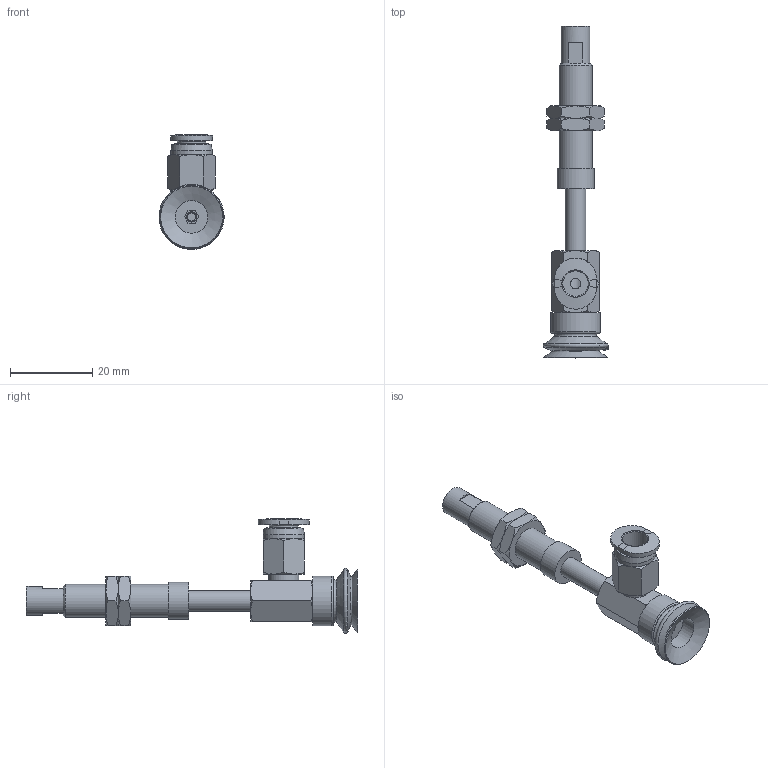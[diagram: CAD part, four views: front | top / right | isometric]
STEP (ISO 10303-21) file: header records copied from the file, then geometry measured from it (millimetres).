
FILE_DESCRIPTION(('STEP AP203'),'1');
FILE_NAME('-O.stp','2025-04-24T01:20:38',(' '),(' '),'Spatial InterOp 3D',' ',' ');
FILE_SCHEMA(('CONFIG_CONTROL_DESIGN'));
Length unit declared in the file: millimetre
Products named in the file (8): BNABPJYS-15-15-※-O; Adapter-15-NAPJ; CONNECTOR_S-15-15; NUT-NAPJ-15-15-s; NAPJTS-15-15-FBODY; NAPJTS-15-15-MBODY; BPJG-15-※; PC-C_06-M5
Assembly tree (8 placements, depth 2):
  BNABPJYS-15-15-※-O
    Adapter-15-NAPJ
    CONNECTOR_S-15-15
    NUT-NAPJ-15-15-s  x2
    NAPJTS-15-15-FBODY
    NAPJTS-15-15-MBODY
    BPJG-15-※
    PC-C_06-M5
Bounding box: 15.99 x 80.5 x 27.87 mm (x, y, z)
Volume: 4725.6 mm3; surface area: 6796.8 mm2
Topology: 7 solids, 10 shells, 202 faces, 425 edges, 255 vertices
Faces by surface type: plane 76, cone 71, cylinder 27, torus 11, bspline 10, sphere 4, revolution 3
Full cylindrical faces by diameter (mm): 2 x1, 2.5 x1, 4 x2, 4.134 x3, 4.6 x1, 5 x5, 7 x2, 7.188 x2, 7.4 x1, 7.9 x1, 8 x2, 8.2 x1, 9 x1, 10 x1, 12 x1
Entity records: 5296 total; most frequent: CARTESIAN_POINT 1466, DIRECTION 717, ORIENTED_EDGE 618, AXIS2_PLACEMENT_3D 315, EDGE_CURVE 311, EDGE_LOOP 261, VERTEX_POINT 216, FACE_OUTER_BOUND 152
